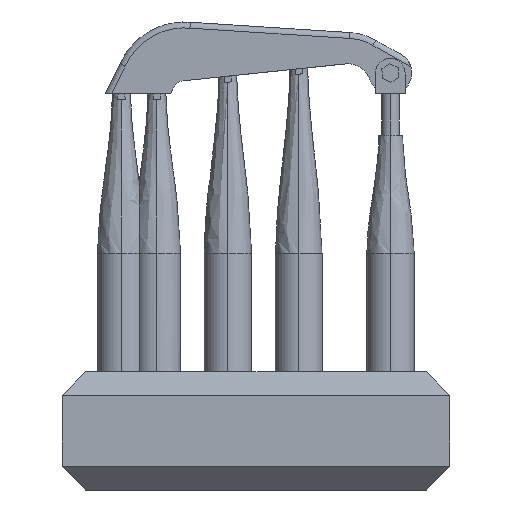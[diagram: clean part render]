
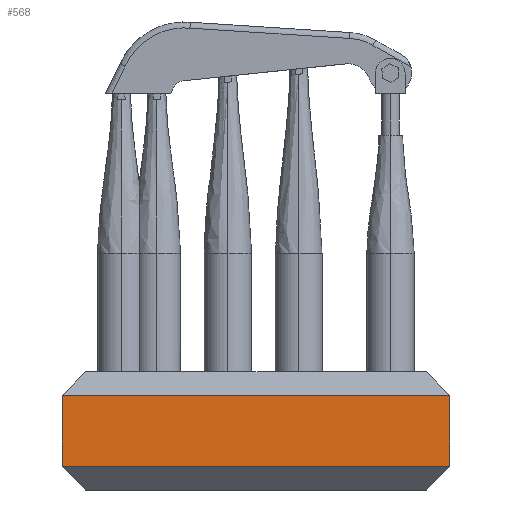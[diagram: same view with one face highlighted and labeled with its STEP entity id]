
A CAD part, left-side view. The second image highlights one B-rep face of the part: STEP entity #568.
In plain terms, the highlighted planar face has unit normal (-1, 0, 0).
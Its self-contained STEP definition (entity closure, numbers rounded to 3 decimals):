
#568=ADVANCED_FACE('',(#1104),#8734,.T.);
#1104=FACE_OUTER_BOUND('',#1718,.T.);
#1718=EDGE_LOOP('',(#4222,#4223,#4224,#4225));
#4222=ORIENTED_EDGE('',*,*,#5836,.T.);
#4223=ORIENTED_EDGE('',*,*,#5812,.T.);
#4224=ORIENTED_EDGE('',*,*,#5837,.F.);
#4225=ORIENTED_EDGE('',*,*,#5813,.F.);
#5812=EDGE_CURVE('',#8166,#8167,#6470,.T.);
#5813=EDGE_CURVE('',#8168,#8169,#6471,.T.);
#5836=EDGE_CURVE('',#8168,#8166,#6494,.T.);
#5837=EDGE_CURVE('',#8169,#8167,#6495,.T.);
#6470=B_SPLINE_CURVE_WITH_KNOTS('',1,(#20492,#20493),.UNSPECIFIED.,.F.,
 .F.,(2,2),(-21.1,-19.9),.UNSPECIFIED.);
#6471=B_SPLINE_CURVE_WITH_KNOTS('',1,(#20494,#20495),.UNSPECIFIED.,.F.,
 .F.,(2,2),(-21.1,-19.9),.UNSPECIFIED.);
#6494=B_SPLINE_CURVE_WITH_KNOTS('',1,(#20688,#20689),.UNSPECIFIED.,.F.,
 .F.,(2,2),(-0.4,6.15),.UNSPECIFIED.);
#6495=B_SPLINE_CURVE_WITH_KNOTS('',1,(#20690,#20691),.UNSPECIFIED.,.F.,
 .F.,(2,2),(-0.4,6.15),.UNSPECIFIED.);
#8166=VERTEX_POINT('',#15028);
#8167=VERTEX_POINT('',#15029);
#8168=VERTEX_POINT('',#15030);
#8169=VERTEX_POINT('',#15031);
#8734=PLANE('',#9172);
#9172=AXIS2_PLACEMENT_3D('',#14222,#9525,$);
#9525=DIRECTION('',(-1.,0.,0.));
#14222=CARTESIAN_POINT('',(-4.75,3.42,21.5));
#15028=CARTESIAN_POINT('',(-4.75,-3.28,0.4));
#15029=CARTESIAN_POINT('',(-4.75,-3.28,1.6));
#15030=CARTESIAN_POINT('',(-4.75,3.27,0.4));
#15031=CARTESIAN_POINT('',(-4.75,3.27,1.6));
#20492=CARTESIAN_POINT('',(-4.75,-3.28,0.4));
#20493=CARTESIAN_POINT('',(-4.75,-3.28,1.6));
#20494=CARTESIAN_POINT('',(-4.75,3.27,0.4));
#20495=CARTESIAN_POINT('',(-4.75,3.27,1.6));
#20688=CARTESIAN_POINT('',(-4.75,3.27,0.4));
#20689=CARTESIAN_POINT('',(-4.75,-3.28,0.4));
#20690=CARTESIAN_POINT('',(-4.75,3.27,1.6));
#20691=CARTESIAN_POINT('',(-4.75,-3.28,1.6));
